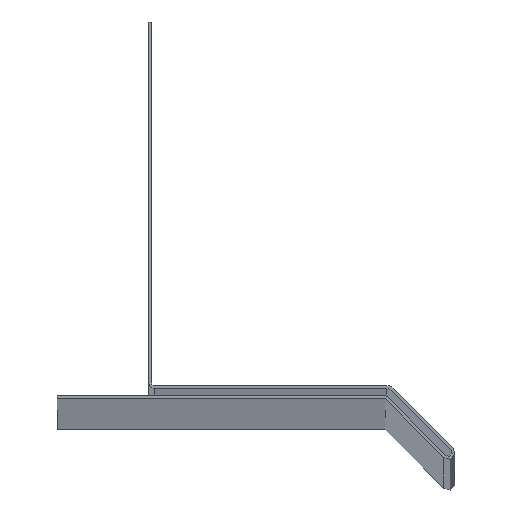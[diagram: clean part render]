
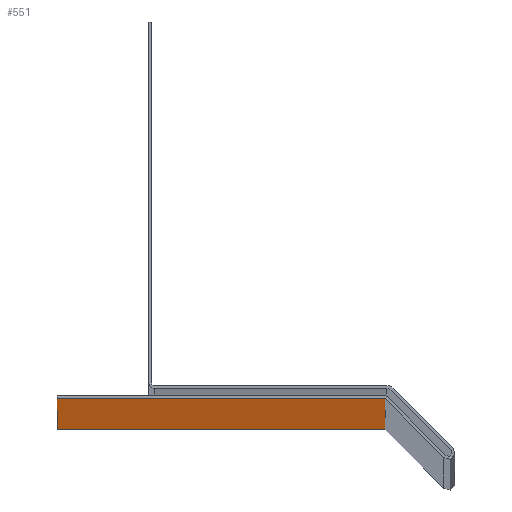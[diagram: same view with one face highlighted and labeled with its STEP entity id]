
A CAD part, top view. The second image highlights one B-rep face of the part: STEP entity #551.
In plain terms, the highlighted planar face has unit normal (0, -1, 0).
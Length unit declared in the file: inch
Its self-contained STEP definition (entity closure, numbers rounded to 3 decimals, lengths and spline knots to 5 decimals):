
#19 = CARTESIAN_POINT ( 'NONE',  ( 1.61257, -0.07, 0. ) ) ;
#63 = LINE ( 'NONE', #410, #108 ) ;
#108 = VECTOR ( 'NONE', #148, 39.37008 ) ;
#136 = EDGE_CURVE ( 'NONE', #244, #714, #63, .T. ) ;
#146 = VERTEX_POINT ( 'NONE', #421 ) ;
#148 = DIRECTION ( 'NONE',  ( -1., 0., 0. ) ) ;
#152 = DIRECTION ( 'NONE',  ( 0., -1., 0. ) ) ;
#170 = LINE ( 'NONE', #575, #805 ) ;
#203 = DIRECTION ( 'NONE',  ( 0., 0., -1. ) ) ;
#244 = VERTEX_POINT ( 'NONE', #672 ) ;
#288 = CARTESIAN_POINT ( 'NONE',  ( -0.625, -0.07, 120. ) ) ;
#297 = LINE ( 'NONE', #823, #559 ) ;
#302 = ORIENTED_EDGE ( 'NONE', *, *, #746, .T. ) ;
#345 = EDGE_LOOP ( 'NONE', ( #641, #428, #651, #302 ) ) ;
#370 = EDGE_CURVE ( 'NONE', #244, #437, #430, .T. ) ;
#410 = CARTESIAN_POINT ( 'NONE',  ( 1.61257, -0.07, 120. ) ) ;
#421 = CARTESIAN_POINT ( 'NONE',  ( -0.625, -0.07, 0. ) ) ;
#428 = ORIENTED_EDGE ( 'NONE', *, *, #370, .F. ) ;
#430 = LINE ( 'NONE', #460, #668 ) ;
#437 = VERTEX_POINT ( 'NONE', #19 ) ;
#460 = CARTESIAN_POINT ( 'NONE',  ( 1.61257, -0.07, 120. ) ) ;
#463 = FACE_OUTER_BOUND ( 'NONE', #345, .T. ) ;
#470 = DIRECTION ( 'NONE',  ( -1., 0., 0. ) ) ;
#472 = AXIS2_PLACEMENT_3D ( 'NONE', #634, #152, #538 ) ;
#538 = DIRECTION ( 'NONE',  ( 1., 0., 0. ) ) ;
#551 = ADVANCED_FACE ( 'NONE', ( #463 ), #723, .T. ) ;
#559 = VECTOR ( 'NONE', #470, 39.37008 ) ;
#575 = CARTESIAN_POINT ( 'NONE',  ( -0.625, -0.07, 120. ) ) ;
#634 = CARTESIAN_POINT ( 'NONE',  ( 1.61257, -0.07, 120. ) ) ;
#641 = ORIENTED_EDGE ( 'NONE', *, *, #764, .F. ) ;
#651 = ORIENTED_EDGE ( 'NONE', *, *, #136, .T. ) ;
#664 = DIRECTION ( 'NONE',  ( 0., 0., -1. ) ) ;
#668 = VECTOR ( 'NONE', #203, 39.37008 ) ;
#672 = CARTESIAN_POINT ( 'NONE',  ( 1.61257, -0.07, 120. ) ) ;
#714 = VERTEX_POINT ( 'NONE', #288 ) ;
#723 = PLANE ( 'NONE',  #472 ) ;
#746 = EDGE_CURVE ( 'NONE', #714, #146, #170, .T. ) ;
#764 = EDGE_CURVE ( 'NONE', #437, #146, #297, .T. ) ;
#805 = VECTOR ( 'NONE', #664, 39.37008 ) ;
#823 = CARTESIAN_POINT ( 'NONE',  ( 1.61257, -0.07, 0. ) ) ;
